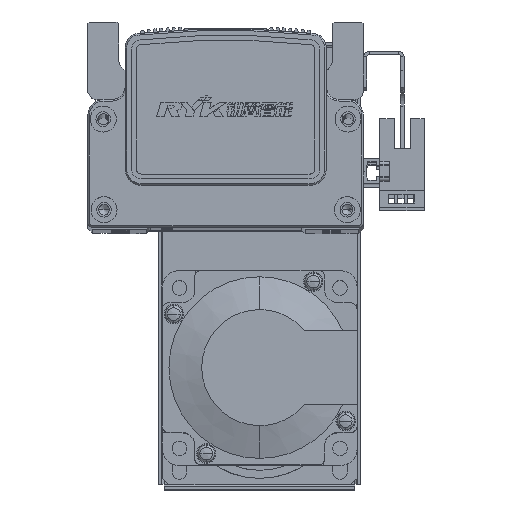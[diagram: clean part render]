
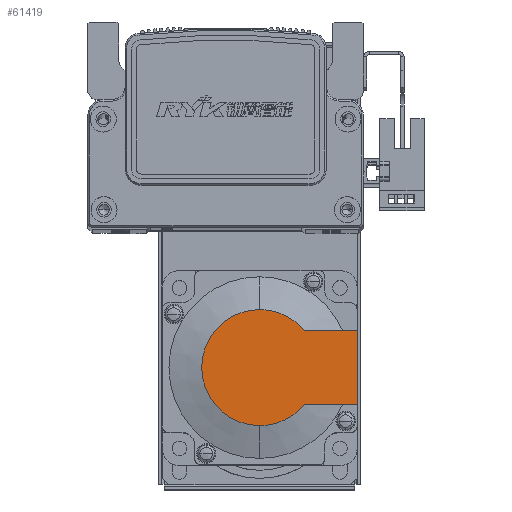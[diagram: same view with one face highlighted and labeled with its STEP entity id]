
A CAD part, top view. The second image highlights one B-rep face of the part: STEP entity #61419.
In plain terms, the highlighted planar face has unit normal (0, 0, 1) as drawn and (-1, 0, 0) by its records, which use the part's own axes.
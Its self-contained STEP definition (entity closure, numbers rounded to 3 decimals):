
#4921 = CARTESIAN_POINT ( 'NONE',  ( -99., 0., -17.881 ) ) ;
#6179 = CARTESIAN_POINT ( 'NONE',  ( -99., 0., 0. ) ) ;
#6198 = DIRECTION ( 'NONE',  ( -1., 0., 0. ) ) ;
#6209 = DIRECTION ( 'NONE',  ( 0., 0., -1. ) ) ;
#7772 = LINE ( 'NONE', #10192, #7774 ) ;
#7774 = VECTOR ( 'NONE', #10115, 1000. ) ;
#7828 = LINE ( 'NONE', #10388, #7923 ) ;
#7840 = VECTOR ( 'NONE', #10346, 1000. ) ;
#7881 = LINE ( 'NONE', #10304, #7840 ) ;
#7899 = CIRCLE ( 'NONE', #69941, 17.881 ) ;
#7923 = VECTOR ( 'NONE', #10418, 1000. ) ;
#9423 = CIRCLE ( 'NONE', #70117, 17.881 ) ;
#9495 = CIRCLE ( 'NONE', #70107, 17.881 ) ;
#9690 = CARTESIAN_POINT ( 'NONE',  ( -99., 0., 0. ) ) ;
#9710 = DIRECTION ( 'NONE',  ( -1., 0., 0. ) ) ;
#10115 = DIRECTION ( 'NONE',  ( 0., -1., 0. ) ) ;
#10192 = CARTESIAN_POINT ( 'NONE',  ( -99., 0., 11.45 ) ) ;
#10283 = DIRECTION ( 'NONE',  ( -1., 0., 0. ) ) ;
#10304 = CARTESIAN_POINT ( 'NONE',  ( -99., -8.941, -11.45 ) ) ;
#10346 = DIRECTION ( 'NONE',  ( 0., -1., 0. ) ) ;
#10352 = CARTESIAN_POINT ( 'NONE',  ( -99., 0., 0. ) ) ;
#10357 = DIRECTION ( 'NONE',  ( 0., 0., -1. ) ) ;
#10388 = CARTESIAN_POINT ( 'NONE',  ( -99., 30., 25. ) ) ;
#10418 = DIRECTION ( 'NONE',  ( 0., 0., 1. ) ) ;
#10535 = DIRECTION ( 'NONE',  ( 0., 0., -1. ) ) ;
#14185 = AXIS2_PLACEMENT_3D ( 'NONE', #24807, #24808, #24822 ) ;
#16290 = FACE_OUTER_BOUND ( 'NONE', #22053, .T. ) ;
#22053 = EDGE_LOOP ( 'NONE', ( #52938, #52966, #52784, #52786, #52868, #52920 ) ) ;
#24796 = PLANE ( 'NONE',  #14185 ) ;
#24807 = CARTESIAN_POINT ( 'NONE',  ( -99., -8.941, 0. ) ) ;
#24808 = DIRECTION ( 'NONE',  ( -1., 0., 0. ) ) ;
#24822 = DIRECTION ( 'NONE',  ( 0., 0., 1. ) ) ;
#37541 = CARTESIAN_POINT ( 'NONE',  ( -99., 30., 11.45 ) ) ;
#37553 = CARTESIAN_POINT ( 'NONE',  ( -99., 13.735, -11.45 ) ) ;
#37656 = CARTESIAN_POINT ( 'NONE',  ( -99., 30., -11.45 ) ) ;
#41342 = CARTESIAN_POINT ( 'NONE',  ( -99., 0., 17.881 ) ) ;
#41498 = CARTESIAN_POINT ( 'NONE',  ( -99., 13.735, 11.45 ) ) ;
#42899 = EDGE_CURVE ( 'NONE', #67140, #71185, #7772, .T. ) ;
#42922 = EDGE_CURVE ( 'NONE', #67115, #43941, #7899, .T. ) ;
#42937 = EDGE_CURVE ( 'NONE', #67212, #67115, #7881, .T. ) ;
#42942 = EDGE_CURVE ( 'NONE', #67212, #67140, #7828, .T. ) ;
#43387 = EDGE_CURVE ( 'NONE', #43941, #71100, #9423, .T. ) ;
#43429 = EDGE_CURVE ( 'NONE', #71100, #71185, #9495, .T. ) ;
#43941 = VERTEX_POINT ( 'NONE', #4921 ) ;
#52784 = ORIENTED_EDGE ( 'NONE', *, *, #43387, .T. ) ;
#52786 = ORIENTED_EDGE ( 'NONE', *, *, #43429, .T. ) ;
#52868 = ORIENTED_EDGE ( 'NONE', *, *, #42899, .F. ) ;
#52920 = ORIENTED_EDGE ( 'NONE', *, *, #42942, .F. ) ;
#52938 = ORIENTED_EDGE ( 'NONE', *, *, #42937, .T. ) ;
#52966 = ORIENTED_EDGE ( 'NONE', *, *, #42922, .T. ) ;
#61419 = ADVANCED_FACE ( 'NONE', ( #16290 ), #24796, .T. ) ;
#67115 = VERTEX_POINT ( 'NONE', #37553 ) ;
#67140 = VERTEX_POINT ( 'NONE', #37541 ) ;
#67212 = VERTEX_POINT ( 'NONE', #37656 ) ;
#69941 = AXIS2_PLACEMENT_3D ( 'NONE', #10352, #10283, #10357 ) ;
#70107 = AXIS2_PLACEMENT_3D ( 'NONE', #9690, #9710, #10535 ) ;
#70117 = AXIS2_PLACEMENT_3D ( 'NONE', #6179, #6198, #6209 ) ;
#71100 = VERTEX_POINT ( 'NONE', #41342 ) ;
#71185 = VERTEX_POINT ( 'NONE', #41498 ) ;
